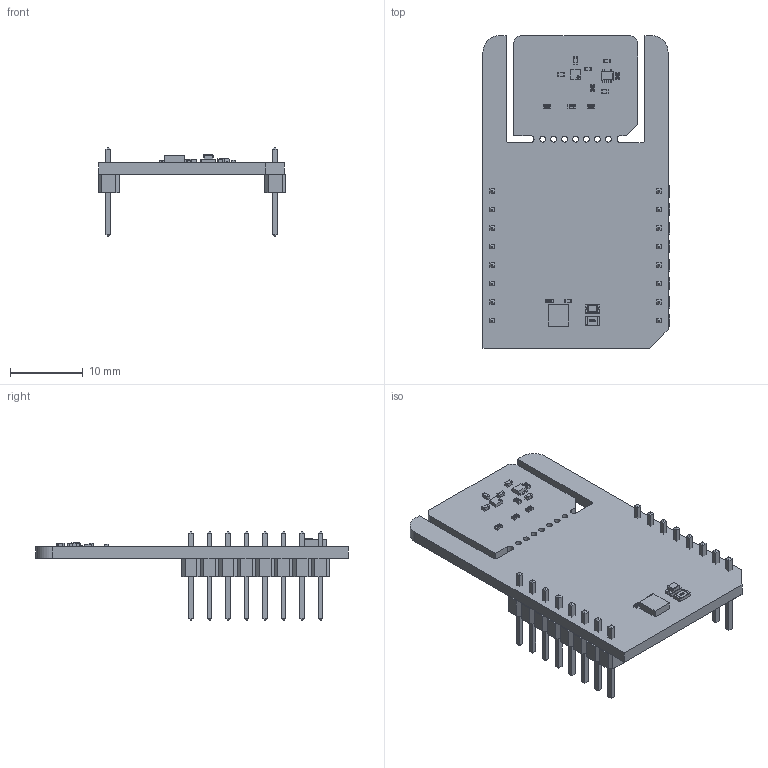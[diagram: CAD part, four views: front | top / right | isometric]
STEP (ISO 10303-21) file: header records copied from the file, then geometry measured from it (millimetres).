
FILE_DESCRIPTION(('Open CASCADE Model'),'2;1');
FILE_NAME('Open CASCADE Shape Model','2026-03-12T12:59:05',('Author'),( 'Open CASCADE'),'Open CASCADE STEP processor 6.8','Open CASCADE 6.8' ,'Unknown');
FILE_SCHEMA(('AUTOMOTIVE_DESIGN { 1 0 10303 214 1 1 1 1 }'));
Length unit declared in the file: millimetre
Products named in the file (37): PCB; Board; R1; User_Library-R_0805; LD1; led_0805_green; R2; User_Library-R_0402; C1; User_Library-SMD_CAPACITOR0402; U1; 672231248; Extruded; MBD1; Header_1x8; Free-Models; 1240637040; User_Library-PinHeaderX5-1_PinHeaderX5_Body_1; User_Library-PinHeaderX5-1_PinHeaderX5_Pins_1; C2; C3; C4; C5; C6; R3; R4; R5; R9; R6; U2; 1100086608; Cylinder; 932956608; U3; User_Library-HVSOF5
Assembly tree (48 placements, depth 7):
  PCB
    Board
    R1
      User_Library-R_0805
    LD1
      led_0805_green
    R2
      User_Library-R_0402
    C1
      User_Library-SMD_CAPACITOR0402
    U1
      672231248
        Extruded
    MBD1
      Header_1x8  x2
        PCB
          Free-Models
            1240637040  x2
              User_Library-PinHeaderX5-1_PinHeaderX5_Body_1
              User_Library-PinHeaderX5-1_PinHeaderX5_Pins_1
    C2
      User_Library-SMD_CAPACITOR0402
    C3
      User_Library-SMD_CAPACITOR0402
    C4
      User_Library-SMD_CAPACITOR0402
    C5
      User_Library-SMD_CAPACITOR0402
    C6
      User_Library-SMD_CAPACITOR0402
    R3
      User_Library-R_0402
    R4
      User_Library-R_0402
    R5
      User_Library-R_0402
    R9
      User_Library-R_0402
    R6
      User_Library-R_0402
    U2
      1100086608
        Cylinder
      932956608
        Extruded
    U3
      User_Library-HVSOF5
Bounding box: 25.78 x 42.93 x 12.19 mm (x, y, z)
Volume: 2141.7 mm3; surface area: 3848.1 mm2
Topology: 48 solids, 48 shells, 1482 faces, 3698 edges, 2324 vertices
Faces by surface type: plane 1103, bspline 198, cylinder 129, sphere 52
Full cylindrical faces by diameter (mm): 0.3 x1, 0.8 x7
Entity records: 22170 total; most frequent: CARTESIAN_POINT 6966, ORIENTED_EDGE 2468, DIRECTION 2144, EDGE_CURVE 1234, LINE 996, VECTOR 996, VERTEX_POINT 796, AXIS2_PLACEMENT_3D 574
